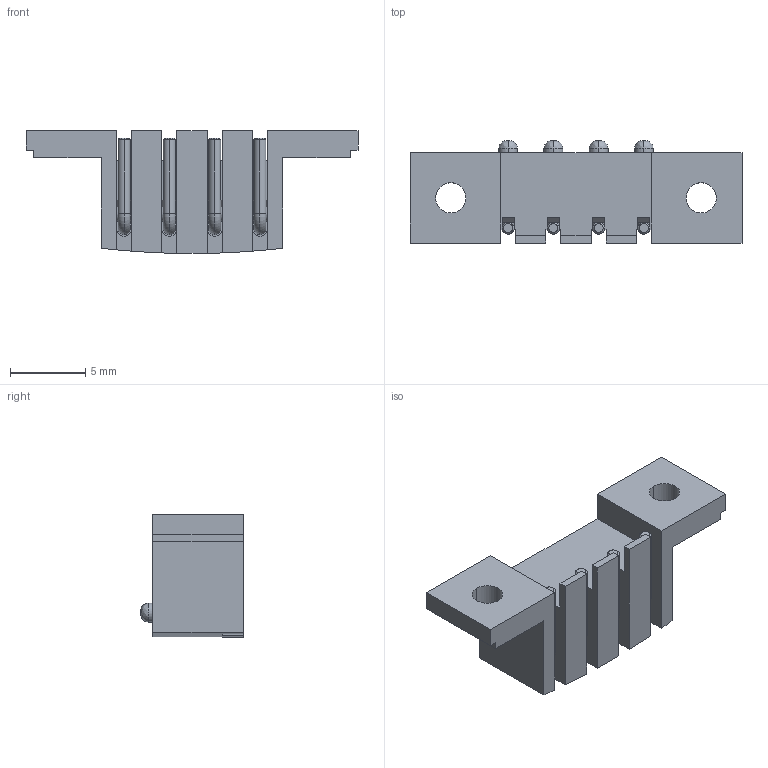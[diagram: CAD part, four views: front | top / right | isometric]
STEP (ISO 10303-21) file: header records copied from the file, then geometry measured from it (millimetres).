
FILE_DESCRIPTION((''),'2;1');
FILE_NAME('MALE_ASM','2020-06-18T',('lenovo'),(''),'PRO/ENGINEER BY PARAMETRIC TECHNOLOGY CORPORATION, 2008380','PRO/ENGINEER BY PARAMETRIC TECHNOLOGY CORPORATION, 2008380','');
FILE_SCHEMA(('CONFIG_CONTROL_DESIGN'));
Length unit declared in the file: millimetre
Products named in the file (3): HOUSING; POGOPIN; MALE_ASM
Assembly tree (5 placements, depth 2):
  MALE_ASM
    HOUSING
    POGOPIN  x4
Bounding box: 22 x 6.8 x 8.15 mm (x, y, z)
Volume: 535.8 mm3; surface area: 940.8 mm2
Topology: 5 solids, 5 shells, 182 faces, 444 edges, 280 vertices
Faces by surface type: plane 97, cylinder 45, torus 16, cone 16, bspline 8
Entity records: 3990 total; most frequent: CARTESIAN_POINT 728, DIRECTION 664, ORIENTED_EDGE 660, EDGE_CURVE 330, VECTOR 252, LINE 252, VERTEX_POINT 214, AXIS2_PLACEMENT_3D 206
